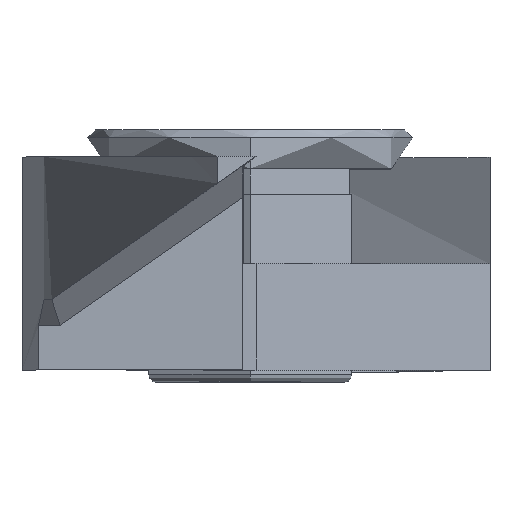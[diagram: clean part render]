
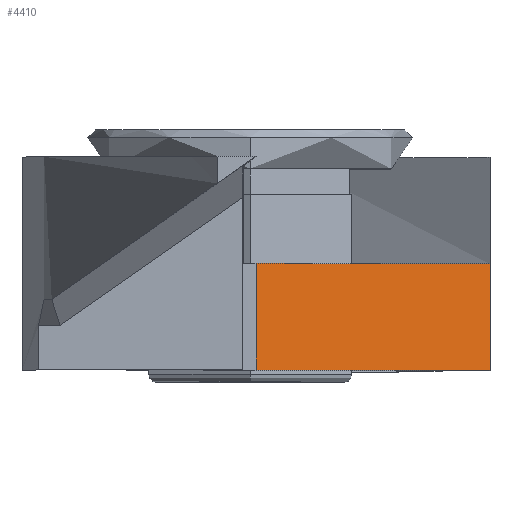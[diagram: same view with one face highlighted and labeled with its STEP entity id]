
A CAD part, top view. The second image highlights one B-rep face of the part: STEP entity #4410.
In plain terms, the highlighted cylindrical face has radius 9.5 mm (diameter 19 mm), a partial arc.
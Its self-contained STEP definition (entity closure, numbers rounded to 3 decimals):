
#51 = VECTOR ( 'NONE', #2937, 1000. ) ;
#76 = DIRECTION ( 'NONE',  ( 0., 0., 1. ) ) ;
#117 = CARTESIAN_POINT ( 'NONE',  ( 1.964, 0., 9.348 ) ) ;
#231 = CARTESIAN_POINT ( 'NONE',  ( 9., 4.1, 3.041 ) ) ;
#243 = CARTESIAN_POINT ( 'NONE',  ( 6.34, 4.1, 7.144 ) ) ;
#420 = CARTESIAN_POINT ( 'NONE',  ( 0., 0., 0. ) ) ;
#470 = CARTESIAN_POINT ( 'NONE',  ( 0., 0., 9.5 ) ) ;
#524 = CARTESIAN_POINT ( 'NONE',  ( 0., 2.05, 9.5 ) ) ;
#526 = ORIENTED_EDGE ( 'NONE', *, *, #3343, .T. ) ;
#606 = CARTESIAN_POINT ( 'NONE',  ( 3.847, 4.1, 8.742 ) ) ;
#814 = CARTESIAN_POINT ( 'NONE',  ( 8.227, 0., 4.853 ) ) ;
#969 = CARTESIAN_POINT ( 'NONE',  ( 0.986, 4.1, 9.5 ) ) ;
#1056 = ORIENTED_EDGE ( 'NONE', *, *, #1295, .F. ) ;
#1295 = EDGE_CURVE ( 'NONE', #3629, #3499, #2001, .T. ) ;
#1324 = B_SPLINE_CURVE_WITH_KNOTS ( 'NONE', 3,
 ( #1577, #3026, #814, #4125, #1938, #4491, #2300, #117, #2674, #470 ),
 .UNSPECIFIED., .F., .F.,
 ( 4, 2, 2, 2, 4 ),
 ( 0., 0.25, 0.5, 0.75, 1. ),
 .UNSPECIFIED. ) ;
#1430 = CARTESIAN_POINT ( 'NONE',  ( 0., 4.1, 9.5 ) ) ;
#1577 = CARTESIAN_POINT ( 'NONE',  ( 9., 0., 3.041 ) ) ;
#1621 = VERTEX_POINT ( 'NONE', #1430 ) ;
#1682 = FACE_OUTER_BOUND ( 'NONE', #1749, .T. ) ;
#1749 = EDGE_LOOP ( 'NONE', ( #526, #2318, #3706, #1056 ) ) ;
#1884 = EDGE_CURVE ( 'NONE', #3499, #4424, #1324, .T. ) ;
#1938 = CARTESIAN_POINT ( 'NONE',  ( 6.346, 0., 7.139 ) ) ;
#2001 = LINE ( 'NONE', #2632, #51 ) ;
#2300 = CARTESIAN_POINT ( 'NONE',  ( 3.855, 0., 8.739 ) ) ;
#2305 = CARTESIAN_POINT ( 'NONE',  ( 0., 0., 9.5 ) ) ;
#2318 = ORIENTED_EDGE ( 'NONE', *, *, #3930, .T. ) ;
#2375 = DIRECTION ( 'NONE',  ( 0., -1., 0. ) ) ;
#2441 = CARTESIAN_POINT ( 'NONE',  ( 7.05, 4.1, 6.444 ) ) ;
#2584 = B_SPLINE_CURVE_WITH_KNOTS ( 'NONE', 3,
 ( #231, #3104, #4626, #2441, #243, #2815, #606, #3179, #969, #3547 ),
 .UNSPECIFIED., .F., .F.,
 ( 4, 2, 2, 2, 4 ),
 ( 0., 0.25, 0.5, 0.75, 1. ),
 .UNSPECIFIED. ) ;
#2632 = CARTESIAN_POINT ( 'NONE',  ( 9., 4.1, 3.041 ) ) ;
#2674 = CARTESIAN_POINT ( 'NONE',  ( 0.994, 0., 9.5 ) ) ;
#2815 = CARTESIAN_POINT ( 'NONE',  ( 4.738, 4.1, 8.293 ) ) ;
#2937 = DIRECTION ( 'NONE',  ( 0., -1., 0. ) ) ;
#3026 = CARTESIAN_POINT ( 'NONE',  ( 8.682, 0., 3.982 ) ) ;
#3104 = CARTESIAN_POINT ( 'NONE',  ( 8.684, 4.1, 3.975 ) ) ;
#3179 = CARTESIAN_POINT ( 'NONE',  ( 1.971, 4.1, 9.345 ) ) ;
#3282 = VECTOR ( 'NONE', #2375, 1000. ) ;
#3343 = EDGE_CURVE ( 'NONE', #3629, #1621, #2584, .T. ) ;
#3499 = VERTEX_POINT ( 'NONE', #3558 ) ;
#3508 = CYLINDRICAL_SURFACE ( 'NONE', #4202, 9.5 ) ;
#3547 = CARTESIAN_POINT ( 'NONE',  ( 0., 4.1, 9.5 ) ) ;
#3558 = CARTESIAN_POINT ( 'NONE',  ( 9., 0., 3.041 ) ) ;
#3629 = VERTEX_POINT ( 'NONE', #3985 ) ;
#3706 = ORIENTED_EDGE ( 'NONE', *, *, #1884, .F. ) ;
#3930 = EDGE_CURVE ( 'NONE', #1621, #4424, #4252, .T. ) ;
#3985 = CARTESIAN_POINT ( 'NONE',  ( 9., 4.1, 3.041 ) ) ;
#4091 = DIRECTION ( 'NONE',  ( 0., 1., 0. ) ) ;
#4125 = CARTESIAN_POINT ( 'NONE',  ( 7.045, 0., 6.45 ) ) ;
#4202 = AXIS2_PLACEMENT_3D ( 'NONE', #420, #4091, #76 ) ;
#4252 = LINE ( 'NONE', #524, #3282 ) ;
#4410 = ADVANCED_FACE ( 'NONE', ( #1682 ), #3508, .T. ) ;
#4424 = VERTEX_POINT ( 'NONE', #2305 ) ;
#4491 = CARTESIAN_POINT ( 'NONE',  ( 4.732, 0., 8.297 ) ) ;
#4626 = CARTESIAN_POINT ( 'NONE',  ( 8.223, 4.1, 4.859 ) ) ;
